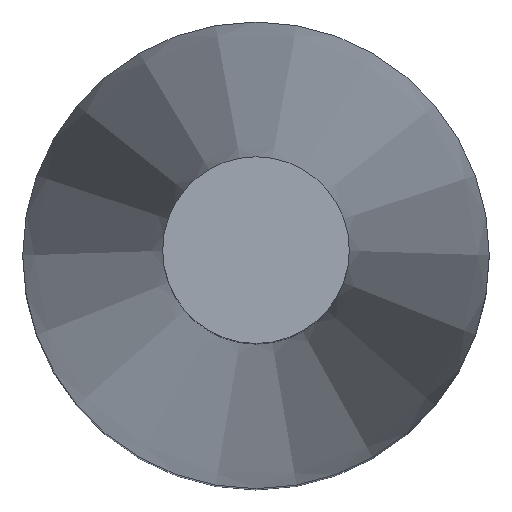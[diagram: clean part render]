
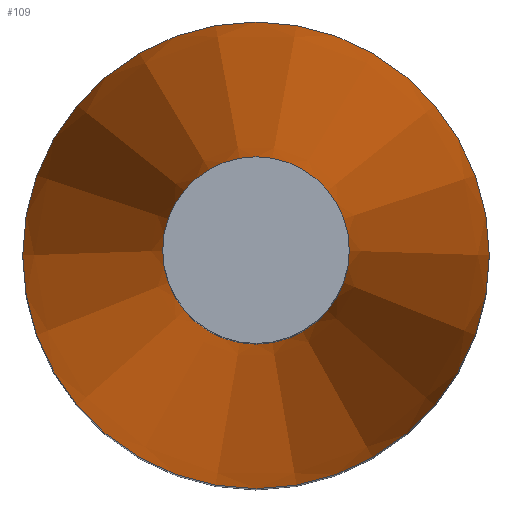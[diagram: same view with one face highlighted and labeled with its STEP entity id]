
A CAD part, top view. The second image highlights one B-rep face of the part: STEP entity #109.
In plain terms, the highlighted conical face has half-angle 3.066 degrees and reference radius 1.25 mm.
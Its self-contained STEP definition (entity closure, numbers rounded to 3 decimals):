
#43 = CYLINDRICAL_SURFACE('',#44,1.25);
#44 = AXIS2_PLACEMENT_3D('',#45,#46,#47);
#45 = CARTESIAN_POINT('',(0.,0.,0.));
#46 = DIRECTION('',(0.,0.,1.));
#47 = DIRECTION('',(1.,0.,-0.));
#60 = VERTEX_POINT('',#61);
#61 = CARTESIAN_POINT('',(1.25,0.,4.));
#82 = EDGE_CURVE('',#60,#60,#83,.T.);
#83 = SURFACE_CURVE('',#84,(#89,#96),.PCURVE_S1.);
#84 = CIRCLE('',#85,1.25);
#85 = AXIS2_PLACEMENT_3D('',#86,#87,#88);
#86 = CARTESIAN_POINT('',(0.,0.,4.));
#87 = DIRECTION('',(0.,0.,1.));
#88 = DIRECTION('',(1.,0.,-0.));
#89 = PCURVE('',#43,#90);
#90 = DEFINITIONAL_REPRESENTATION('',(#91),#95);
#91 = LINE('',#92,#93);
#92 = CARTESIAN_POINT('',(0.,4.));
#93 = VECTOR('',#94,1.);
#94 = DIRECTION('',(1.,0.));
#95 = ( GEOMETRIC_REPRESENTATION_CONTEXT(2) 
PARAMETRIC_REPRESENTATION_CONTEXT() REPRESENTATION_CONTEXT('2D SPACE',''
  ) );
#96 = PCURVE('',#97,#102);
#97 = CONICAL_SURFACE('',#98,1.25,0.054);
#98 = AXIS2_PLACEMENT_3D('',#99,#100,#101);
#99 = CARTESIAN_POINT('',(0.,0.,4.));
#100 = DIRECTION('',(-0.,-0.,-1.));
#101 = DIRECTION('',(1.,0.,-0.));
#102 = DEFINITIONAL_REPRESENTATION('',(#103),#107);
#103 = LINE('',#104,#105);
#104 = CARTESIAN_POINT('',(-0.,-0.));
#105 = VECTOR('',#106,1.);
#106 = DIRECTION('',(-1.,-0.));
#107 = ( GEOMETRIC_REPRESENTATION_CONTEXT(2) 
PARAMETRIC_REPRESENTATION_CONTEXT() REPRESENTATION_CONTEXT('2D SPACE',''
  ) );
#109 = ADVANCED_FACE('',(#110),#97,.T.);
#110 = FACE_BOUND('',#111,.T.);
#111 = EDGE_LOOP('',(#112,#113,#136,#163));
#112 = ORIENTED_EDGE('',*,*,#82,.T.);
#113 = ORIENTED_EDGE('',*,*,#114,.T.);
#114 = EDGE_CURVE('',#60,#115,#117,.T.);
#115 = VERTEX_POINT('',#116);
#116 = CARTESIAN_POINT('',(0.5,0.,18.));
#117 = SEAM_CURVE('',#118,(#122,#129),.PCURVE_S1.);
#118 = LINE('',#119,#120);
#119 = CARTESIAN_POINT('',(1.25,0.,4.));
#120 = VECTOR('',#121,1.);
#121 = DIRECTION('',(-0.053,0.,0.999));
#122 = PCURVE('',#97,#123);
#123 = DEFINITIONAL_REPRESENTATION('',(#124),#128);
#124 = LINE('',#125,#126);
#125 = CARTESIAN_POINT('',(-0.,-0.));
#126 = VECTOR('',#127,1.);
#127 = DIRECTION('',(-0.,-1.));
#128 = ( GEOMETRIC_REPRESENTATION_CONTEXT(2) 
PARAMETRIC_REPRESENTATION_CONTEXT() REPRESENTATION_CONTEXT('2D SPACE',''
  ) );
#129 = PCURVE('',#97,#130);
#130 = DEFINITIONAL_REPRESENTATION('',(#131),#135);
#131 = LINE('',#132,#133);
#132 = CARTESIAN_POINT('',(-6.283,-0.));
#133 = VECTOR('',#134,1.);
#134 = DIRECTION('',(-0.,-1.));
#135 = ( GEOMETRIC_REPRESENTATION_CONTEXT(2) 
PARAMETRIC_REPRESENTATION_CONTEXT() REPRESENTATION_CONTEXT('2D SPACE',''
  ) );
#136 = ORIENTED_EDGE('',*,*,#137,.F.);
#137 = EDGE_CURVE('',#115,#115,#138,.T.);
#138 = SURFACE_CURVE('',#139,(#144,#151),.PCURVE_S1.);
#139 = CIRCLE('',#140,0.5);
#140 = AXIS2_PLACEMENT_3D('',#141,#142,#143);
#141 = CARTESIAN_POINT('',(0.,0.,18.));
#142 = DIRECTION('',(0.,0.,1.));
#143 = DIRECTION('',(1.,0.,-0.));
#144 = PCURVE('',#97,#145);
#145 = DEFINITIONAL_REPRESENTATION('',(#146),#150);
#146 = LINE('',#147,#148);
#147 = CARTESIAN_POINT('',(-0.,-14.));
#148 = VECTOR('',#149,1.);
#149 = DIRECTION('',(-1.,-0.));
#150 = ( GEOMETRIC_REPRESENTATION_CONTEXT(2) 
PARAMETRIC_REPRESENTATION_CONTEXT() REPRESENTATION_CONTEXT('2D SPACE',''
  ) );
#151 = PCURVE('',#152,#157);
#152 = CYLINDRICAL_SURFACE('',#153,0.5);
#153 = AXIS2_PLACEMENT_3D('',#154,#155,#156);
#154 = CARTESIAN_POINT('',(0.,0.,18.));
#155 = DIRECTION('',(0.,0.,1.));
#156 = DIRECTION('',(1.,0.,-0.));
#157 = DEFINITIONAL_REPRESENTATION('',(#158),#162);
#158 = LINE('',#159,#160);
#159 = CARTESIAN_POINT('',(0.,0.));
#160 = VECTOR('',#161,1.);
#161 = DIRECTION('',(1.,0.));
#162 = ( GEOMETRIC_REPRESENTATION_CONTEXT(2) 
PARAMETRIC_REPRESENTATION_CONTEXT() REPRESENTATION_CONTEXT('2D SPACE',''
  ) );
#163 = ORIENTED_EDGE('',*,*,#114,.F.);
